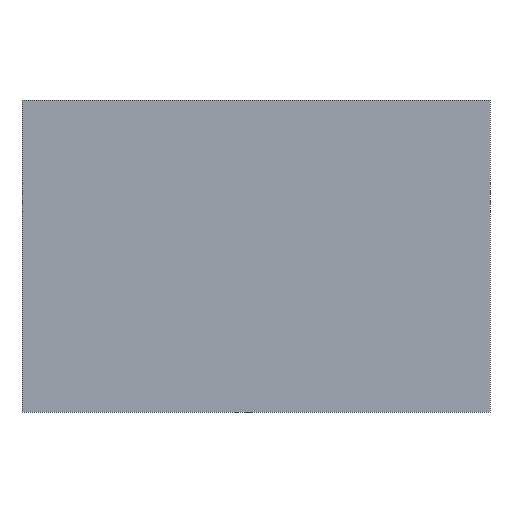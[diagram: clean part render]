
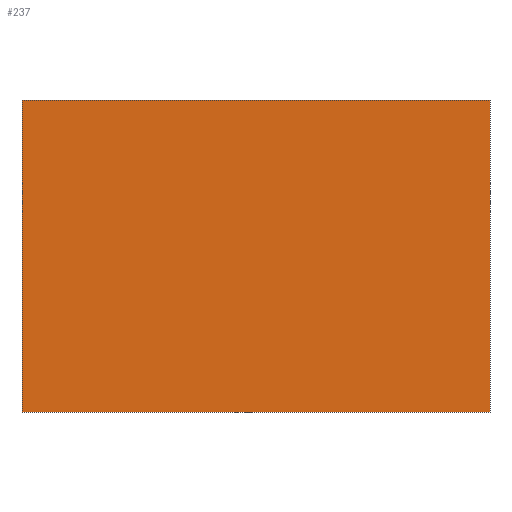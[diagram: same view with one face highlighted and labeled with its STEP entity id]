
A CAD part, front view. The second image highlights one B-rep face of the part: STEP entity #237.
In plain terms, the highlighted planar face has unit normal (0, -1, 0).
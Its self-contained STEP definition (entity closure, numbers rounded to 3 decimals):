
#24 = VERTEX_POINT('',#25);
#25 = CARTESIAN_POINT('',(-48.,55.,56.));
#32 = PLANE('',#33);
#33 = AXIS2_PLACEMENT_3D('',#34,#35,#36);
#34 = CARTESIAN_POINT('',(-48.,55.,54.));
#35 = DIRECTION('',(1.,0.,0.));
#36 = DIRECTION('',(0.,0.,1.));
#44 = PLANE('',#45);
#45 = AXIS2_PLACEMENT_3D('',#46,#47,#48);
#46 = CARTESIAN_POINT('',(-48.,55.,56.));
#47 = DIRECTION('',(0.,0.,1.));
#48 = DIRECTION('',(1.,0.,0.));
#85 = VERTEX_POINT('',#86);
#86 = CARTESIAN_POINT('',(-48.,55.,54.));
#100 = PLANE('',#101);
#101 = AXIS2_PLACEMENT_3D('',#102,#103,#104);
#102 = CARTESIAN_POINT('',(-48.,55.,54.));
#103 = DIRECTION('',(0.,0.,1.));
#104 = DIRECTION('',(1.,0.,0.));
#112 = EDGE_CURVE('',#85,#24,#113,.T.);
#113 = SURFACE_CURVE('',#114,(#118,#125),.PCURVE_S1.);
#114 = LINE('',#115,#116);
#115 = CARTESIAN_POINT('',(-48.,55.,54.));
#116 = VECTOR('',#117,1.);
#117 = DIRECTION('',(0.,0.,1.));
#118 = PCURVE('',#32,#119);
#119 = DEFINITIONAL_REPRESENTATION('',(#120),#124);
#120 = LINE('',#121,#122);
#121 = CARTESIAN_POINT('',(0.,0.));
#122 = VECTOR('',#123,1.);
#123 = DIRECTION('',(1.,0.));
#124 = ( GEOMETRIC_REPRESENTATION_CONTEXT(2) 
PARAMETRIC_REPRESENTATION_CONTEXT() REPRESENTATION_CONTEXT('2D SPACE',''
  ) );
#125 = PCURVE('',#126,#131);
#126 = PLANE('',#127);
#127 = AXIS2_PLACEMENT_3D('',#128,#129,#130);
#128 = CARTESIAN_POINT('',(-48.,55.,54.));
#129 = DIRECTION('',(0.,1.,0.));
#130 = DIRECTION('',(0.,0.,1.));
#131 = DEFINITIONAL_REPRESENTATION('',(#132),#136);
#132 = LINE('',#133,#134);
#133 = CARTESIAN_POINT('',(0.,0.));
#134 = VECTOR('',#135,1.);
#135 = DIRECTION('',(1.,0.));
#136 = ( GEOMETRIC_REPRESENTATION_CONTEXT(2) 
PARAMETRIC_REPRESENTATION_CONTEXT() REPRESENTATION_CONTEXT('2D SPACE',''
  ) );
#141 = EDGE_CURVE('',#142,#144,#146,.T.);
#142 = VERTEX_POINT('',#143);
#143 = CARTESIAN_POINT('',(-45.,55.,54.));
#144 = VERTEX_POINT('',#145);
#145 = CARTESIAN_POINT('',(-45.,55.,56.));
#146 = SURFACE_CURVE('',#147,(#151,#163),.PCURVE_S1.);
#147 = LINE('',#148,#149);
#148 = CARTESIAN_POINT('',(-45.,55.,54.));
#149 = VECTOR('',#150,1.);
#150 = DIRECTION('',(0.,0.,1.));
#151 = PCURVE('',#152,#157);
#152 = PLANE('',#153);
#153 = AXIS2_PLACEMENT_3D('',#154,#155,#156);
#154 = CARTESIAN_POINT('',(-45.,55.,54.));
#155 = DIRECTION('',(1.,0.,0.));
#156 = DIRECTION('',(0.,0.,1.));
#157 = DEFINITIONAL_REPRESENTATION('',(#158),#162);
#158 = LINE('',#159,#160);
#159 = CARTESIAN_POINT('',(0.,0.));
#160 = VECTOR('',#161,1.);
#161 = DIRECTION('',(1.,0.));
#162 = ( GEOMETRIC_REPRESENTATION_CONTEXT(2) 
PARAMETRIC_REPRESENTATION_CONTEXT() REPRESENTATION_CONTEXT('2D SPACE',''
  ) );
#163 = PCURVE('',#126,#164);
#164 = DEFINITIONAL_REPRESENTATION('',(#165),#169);
#165 = LINE('',#166,#167);
#166 = CARTESIAN_POINT('',(0.,3.));
#167 = VECTOR('',#168,1.);
#168 = DIRECTION('',(1.,0.));
#169 = ( GEOMETRIC_REPRESENTATION_CONTEXT(2) 
PARAMETRIC_REPRESENTATION_CONTEXT() REPRESENTATION_CONTEXT('2D SPACE',''
  ) );
#237 = ADVANCED_FACE('',(#238),#126,.F.);
#238 = FACE_BOUND('',#239,.T.);
#239 = EDGE_LOOP('',(#240,#241,#262,#263));
#240 = ORIENTED_EDGE('',*,*,#141,.T.);
#241 = ORIENTED_EDGE('',*,*,#242,.F.);
#242 = EDGE_CURVE('',#24,#144,#243,.T.);
#243 = SURFACE_CURVE('',#244,(#248,#255),.PCURVE_S1.);
#244 = LINE('',#245,#246);
#245 = CARTESIAN_POINT('',(-48.,55.,56.));
#246 = VECTOR('',#247,1.);
#247 = DIRECTION('',(1.,0.,0.));
#248 = PCURVE('',#126,#249);
#249 = DEFINITIONAL_REPRESENTATION('',(#250),#254);
#250 = LINE('',#251,#252);
#251 = CARTESIAN_POINT('',(2.,0.));
#252 = VECTOR('',#253,1.);
#253 = DIRECTION('',(0.,1.));
#254 = ( GEOMETRIC_REPRESENTATION_CONTEXT(2) 
PARAMETRIC_REPRESENTATION_CONTEXT() REPRESENTATION_CONTEXT('2D SPACE',''
  ) );
#255 = PCURVE('',#44,#256);
#256 = DEFINITIONAL_REPRESENTATION('',(#257),#261);
#257 = LINE('',#258,#259);
#258 = CARTESIAN_POINT('',(0.,0.));
#259 = VECTOR('',#260,1.);
#260 = DIRECTION('',(1.,0.));
#261 = ( GEOMETRIC_REPRESENTATION_CONTEXT(2) 
PARAMETRIC_REPRESENTATION_CONTEXT() REPRESENTATION_CONTEXT('2D SPACE',''
  ) );
#262 = ORIENTED_EDGE('',*,*,#112,.F.);
#263 = ORIENTED_EDGE('',*,*,#264,.T.);
#264 = EDGE_CURVE('',#85,#142,#265,.T.);
#265 = SURFACE_CURVE('',#266,(#270,#277),.PCURVE_S1.);
#266 = LINE('',#267,#268);
#267 = CARTESIAN_POINT('',(-48.,55.,54.));
#268 = VECTOR('',#269,1.);
#269 = DIRECTION('',(1.,0.,0.));
#270 = PCURVE('',#126,#271);
#271 = DEFINITIONAL_REPRESENTATION('',(#272),#276);
#272 = LINE('',#273,#274);
#273 = CARTESIAN_POINT('',(0.,0.));
#274 = VECTOR('',#275,1.);
#275 = DIRECTION('',(0.,1.));
#276 = ( GEOMETRIC_REPRESENTATION_CONTEXT(2) 
PARAMETRIC_REPRESENTATION_CONTEXT() REPRESENTATION_CONTEXT('2D SPACE',''
  ) );
#277 = PCURVE('',#100,#278);
#278 = DEFINITIONAL_REPRESENTATION('',(#279),#283);
#279 = LINE('',#280,#281);
#280 = CARTESIAN_POINT('',(0.,0.));
#281 = VECTOR('',#282,1.);
#282 = DIRECTION('',(1.,0.));
#283 = ( GEOMETRIC_REPRESENTATION_CONTEXT(2) 
PARAMETRIC_REPRESENTATION_CONTEXT() REPRESENTATION_CONTEXT('2D SPACE',''
  ) );
